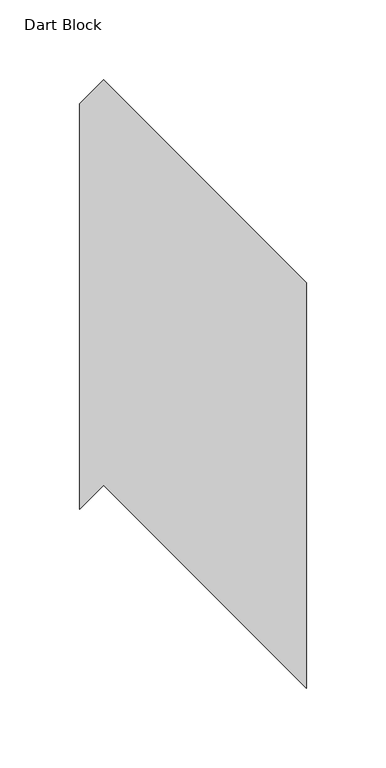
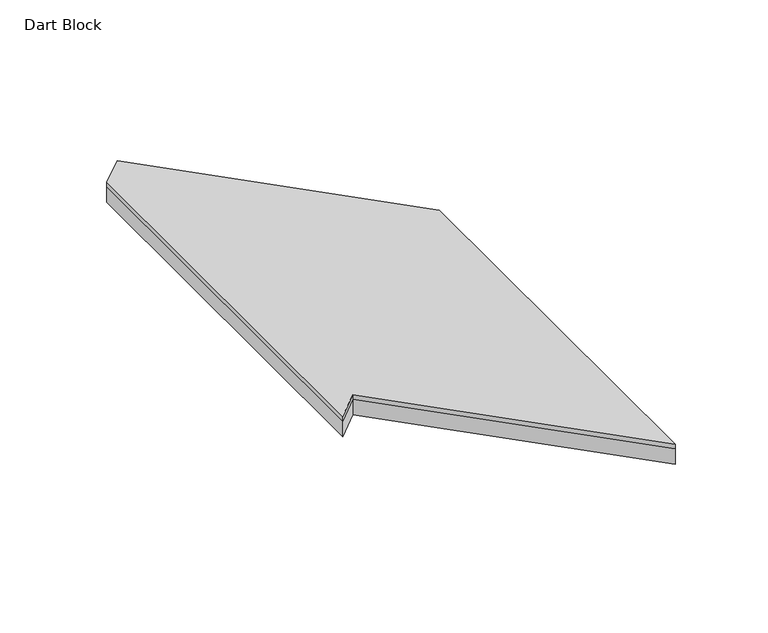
"""IFC4 building model written with IfcOpenShell, lengths in millimetres: proxy geometry, FilzFelt_Dart_Block : Dart Block."""

from ifc_helpers import new_model, si_unit, frame, origin, origin_with_axes, place, context, project, spatial, polyline, outline, extrude, source, transform, mapped, element, save


def dart_block_36aabd5a(model_context):
    return source(origin(), model_context, "Body", "SweptSolid", [
        extrude(outline(polyline([(0.0, 190.5), (127.0, 63.5), (127.0, -190.5), (0.0, -63.5), (-15.0561328, -78.5561328), (-15.0561328, 175.4438672), (0.0, 190.5)])), frame((0.0, 0.0, 10.0210937), z_axis=(0.0, 0.0, 1.0), x_axis=(1.0, 0.0, 0.0)), (0.0, 0.0, 1.0), 2.9765625),
        extrude(outline(polyline([(127.0, -190.5), (0.0, -63.5), (-15.0561328, -78.5561328), (-15.0561328, 175.4438672), (0.0, 190.5), (127.0, 63.5), (127.0, -190.5)])), origin_with_axes(), (0.0, 0.0, 1.0), 10.0210938),
    ])


if __name__ == "__main__":
    model = new_model("IFC4")
    model_context = context("Model", 3, world=origin())
    ifc_project = project(units=[si_unit("LENGTHUNIT", "METRE", prefix="MILLI")], contexts=[model_context])
    site = spatial("IfcSite", under=ifc_project)
    building = spatial("IfcBuilding", under=site)
    placement = place(None, origin())
    dart_block_shape = dart_block_36aabd5a(model_context)
    element("IfcBuildingElementProxy", 1, Name="FilzFelt_Dart_Block : Dart Block", ObjectType="FilzFelt_Dart_Block : Dart Block", at=placement, inside=building, context=model_context, shape_type="MappedRepresentation", body=[
        mapped(dart_block_shape, transform((0.0, 0.0, 0.0), x_axis=(1.0, 0.0, 0.0), y_axis=(0.0, 1.0, 0.0), z_axis=(0.0, 0.0, 1.0))),
    ])
    save(model, "model.ifc")
